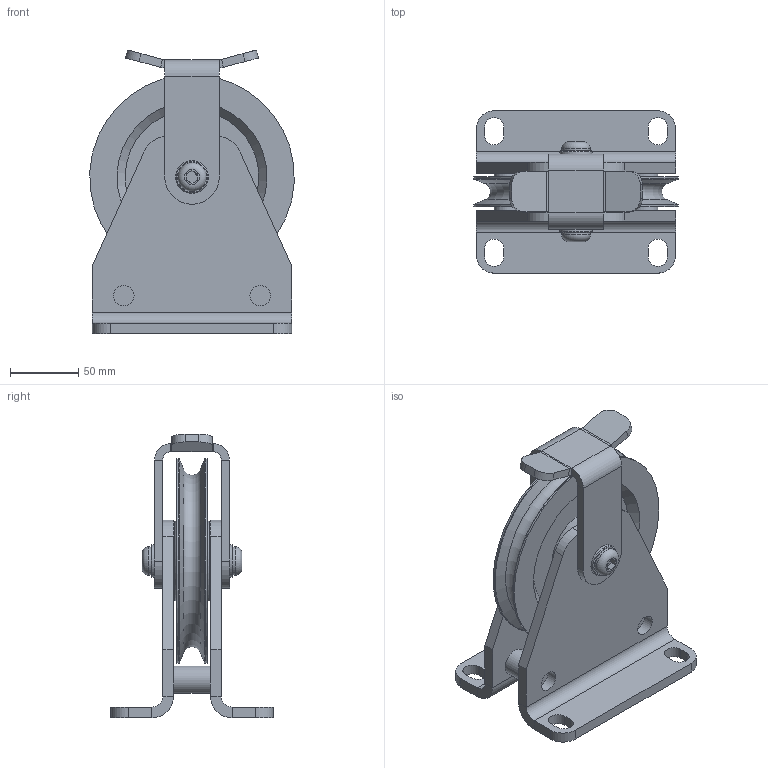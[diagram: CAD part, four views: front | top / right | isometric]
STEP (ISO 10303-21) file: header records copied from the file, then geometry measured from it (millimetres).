
FILE_DESCRIPTION(/* description */ ('Seilrollenbock Seilniederhalter ø150 Stahl Kugellager komplett'),/* implementation_level */ '2;1');
FILE_NAME(/* name */ 'Z:\Workspace\03 Seilrollen\1.406 K Seilrollenbock Seilniederhalter Kugellager\1.406.05 K Seilrollenbock Seilniederhalter ø150 Stahl Kugellager\1.406.05 K Seilrollenbock Seilniederhalter ø150 Stahl Kugellager komplett.stp',/* time_stamp */ '2021-10-07T11:29:39+02:00',/* author */ ('cad-user'),/* organization */ (''),/* preprocessor_version */ 'ST-DEVELOPER v18',/* originating_system */ 'Autodesk Inventor 2020',/* authorisation */ '');
FILE_SCHEMA (('AUTOMOTIVE_DESIGN { 1 0 10303 214 3 1 1 }'));
Length unit declared in the file: millimetre
Products named in the file (16): 1.406.05 K Seilrollenbock Seilniederhalter ø150 Stahl Kugellager 
komplett; 1.405.05.01 Seilrollenbock Schweißteil; 1.405.05.01 Blech; 1.405.04.01 Distanzachse; 1.402.05 Seilrolle ø150 Kugellager komplett; 1.402.05 Seilrolle ø150 Kugellager; DIN625 - 6004-2RS - P63; din625_-_6004-2rs_-_p63_0_05; din625_-_6004-2rs_-_p63_0_04; din625_-_6004-2rs_-_p63_0_03; din625_-_6004-2rs_-_p63_0_02; din625_-_6004-2rs_-_p63_0_01; 1.405.05.02 Achse; DIN 125-1 - B 13; ISO 7380 - M12 x 25; 1.406.05.03 Seilniederhalter ø150
Assembly tree (20 placements, depth 4):
  1.406.05 K Seilrollenbock Seilniederhalter ø150 Stahl Kugellager 
komplett
    1.405.05.01 Seilrollenbock Schweißteil
      1.405.05.01 Blech  x2
      1.405.04.01 Distanzachse  x2
    1.402.05 Seilrolle ø150 Kugellager komplett
      1.402.05 Seilrolle ø150 Kugellager
      DIN625 - 6004-2RS - P63  x2
        din625_-_6004-2rs_-_p63_0_05
        din625_-_6004-2rs_-_p63_0_04
        din625_-_6004-2rs_-_p63_0_03
        din625_-_6004-2rs_-_p63_0_02
        din625_-_6004-2rs_-_p63_0_01
    1.405.05.02 Achse
    DIN 125-1 - B 13  x2
    ISO 7380 - M12 x 25  x2
    1.406.05.03 Seilniederhalter ø150
Bounding box: 149.8 x 119 x 208.04 mm (x, y, z)
Volume: 674605.9 mm3; surface area: 212911.6 mm2
Topology: 21 solids, 21 shells, 280 faces, 720 edges, 494 vertices
Faces by surface type: plane 128, cylinder 89, torus 35, sphere 16, cone 12
Full cylindrical faces by diameter (mm): 10.106 x1, 12 x2, 12.6 x4, 13 x2, 15 x4, 20 x5, 21 x2, 24 x2, 24.4 x8, 26.6 x4, 35.4 x4, 36 x1, 39 x8, 42 x4, 60 x2, 150 x2
Entity records: 6596 total; most frequent: CARTESIAN_POINT 1512, DIRECTION 1042, ORIENTED_EDGE 868, EDGE_CURVE 434, AXIS2_PLACEMENT_3D 433, VERTEX_POINT 306, EDGE_LOOP 234, CIRCLE 219
